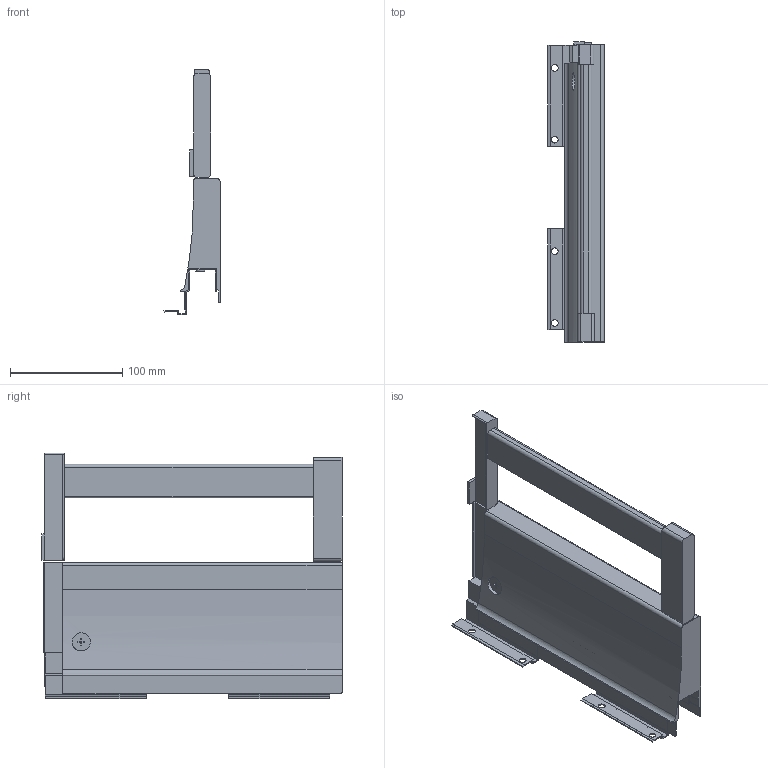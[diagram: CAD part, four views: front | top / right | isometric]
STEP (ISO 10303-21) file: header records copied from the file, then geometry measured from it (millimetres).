
FILE_DESCRIPTION (( 'STEP AP214' ), '1' );
FILE_NAME ('_XP Agantis Dekorseite H127 NL275 RE Rechteckreling.step', '2010-07-08T06:24:11', ( 'grass' ), ( '' ), 'SwSTEP 2.0', 'SolidWorks 2010', '' );
FILE_SCHEMA (( 'AUTOMOTIVE_DESIGN' ));
Length unit declared in the file: millimetre
Products named in the file (1): _XP Agantis Dekorseite H127 NL275 RE Rechteckreling
Bounding box: 50.01 x 267.45 x 219 mm (x, y, z)
Volume: 702881 mm3; surface area: 143566.1 mm2
Topology: 2 solids, 2 shells, 155 faces, 438 edges, 288 vertices
Faces by surface type: plane 118, cylinder 37
Entity records: 5119 total; most frequent: CARTESIAN_POINT 969, ORIENTED_EDGE 876, DIRECTION 821, EDGE_CURVE 438, VECTOR 363, LINE 363, VERTEX_POINT 288, AXIS2_PLACEMENT_3D 229
